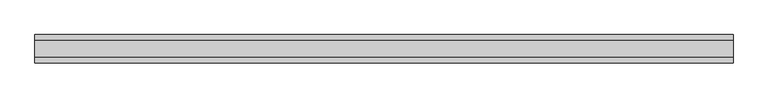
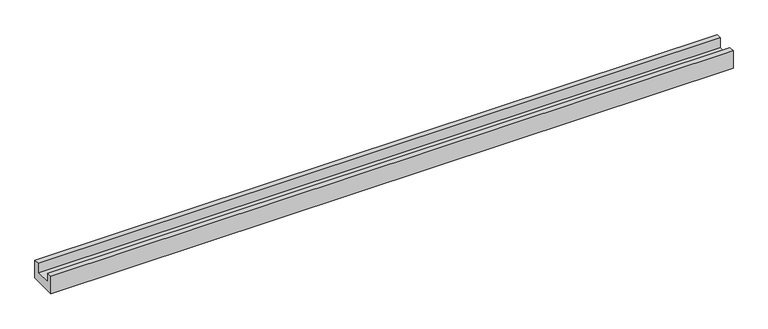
"""IFC4 building model written with IfcOpenShell, lengths in millimetres: proxy geometry, Weiku - Montante - Caixilho duplo 02.2.01.002 : Weiku - Montante - Caixilho duplo 02.2.01.002."""

from ifc_helpers import new_model, si_unit, frame, origin, place, context, project, spatial, polyline, outline, extrude, source, transform, mapped, element, save


def generic_models_6bfb9ed2(model_context):
    return source(origin(), model_context, "Body", "SweptSolid", [
        extrude(outline(polyline([(15.0, 52.0), (15.0, 26.0), (62.0, 23.7770256), (62.0, 52.0), (77.0, 52.0), (77.0, 0.0), (0.0, 0.0), (0.0, 52.0), (15.0, 52.0)])), frame((-953.0, 0.0, 0.0), z_axis=(1.0, 0.0, 0.0), x_axis=(0.0, 1.0, 0.0)), (0.0, 0.0, 1.0), 1906.0),
    ])


if __name__ == "__main__":
    model = new_model("IFC4")
    model_context = context("Model", 3, world=origin())
    ifc_project = project(units=[si_unit("LENGTHUNIT", "METRE", prefix="MILLI")], contexts=[model_context])
    site = spatial("IfcSite", under=ifc_project)
    building = spatial("IfcBuilding", under=site)
    placement = place(None, origin())
    generic_models_shape = generic_models_6bfb9ed2(model_context)
    element("IfcBuildingElementProxy", 1, Name="Weiku - Montante - Caixilho duplo 02.2.01.002 : Weiku - Montante - Caixilho duplo 02.2.01.002", ObjectType="Weiku - Montante - Caixilho duplo 02.2.01.002 : Weiku - Montante - Caixilho duplo 02.2.01.002", at=placement, inside=building, context=model_context, shape_type="MappedRepresentation", body=[
        mapped(generic_models_shape, transform((0.0, 0.0, 0.0), x_axis=(1.0, 0.0, 0.0), y_axis=(0.0, 1.0, 0.0), z_axis=(0.0, 0.0, 1.0))),
    ])
    save(model, "model.ifc")
